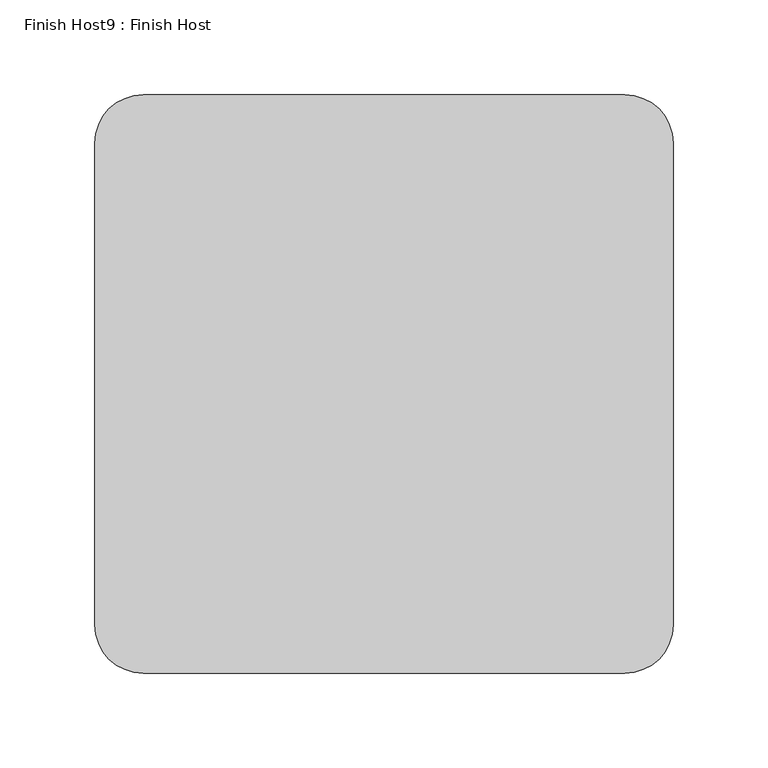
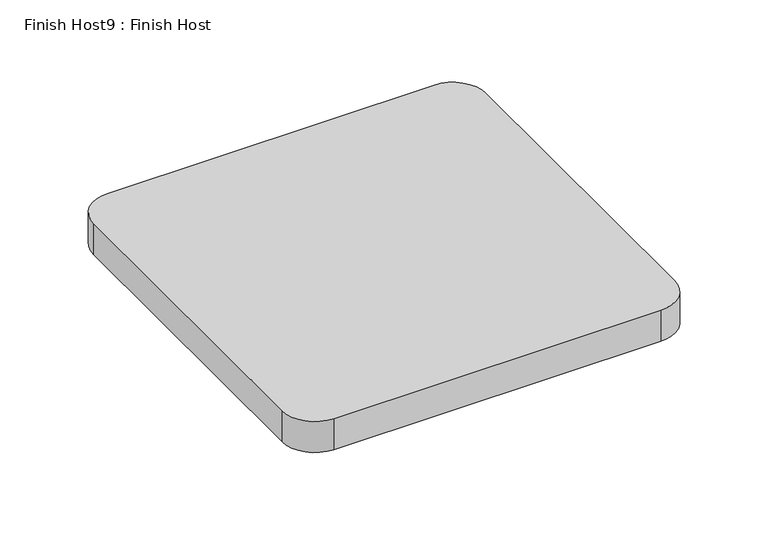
"""IFC4 building model written with IfcOpenShell, lengths in millimetres: proxy geometry, Finish Host9 : Finish Host."""

from ifc_helpers import new_model, si_unit, point, frame_2d, origin, origin_with_axes, place, context, project, spatial, polyline, circle_curve, trimmed, segment, composite_curve, outline, extrude, source, transform, mapped, element, save


def finish_host9_finish_host_c5e91da6(model_context):
    return source(origin(), model_context, "Body", "SweptSolid", [
        extrude(outline(composite_curve([segment(polyline([(3018.9649374, 2632.9667263), (3018.9649374, 2886.9667263)]), True, "CONTINUOUS"), segment(trimmed(circle_curve(frame_2d((3044.3649374, 2886.9667263)), 25.4), [point((3018.9649374, 2886.9667263))], [point((3044.3649374, 2912.3667263))], False, "CARTESIAN"), True, "CONTINUOUS"), segment(polyline([(3044.3649374, 2912.3667263), (3298.3649374, 2912.3667263)]), True, "CONTINUOUS"), segment(trimmed(circle_curve(frame_2d((3298.3649374, 2886.9667263)), 25.4), [point((3298.3649374, 2912.3667263))], [point((3323.7649374, 2886.9667263))], False, "CARTESIAN"), True, "CONTINUOUS"), segment(polyline([(3323.7649374, 2886.9667263), (3323.7649374, 2632.9667263)]), True, "CONTINUOUS"), segment(trimmed(circle_curve(frame_2d((3298.3649374, 2632.9667263)), 25.4), [point((3323.7649374, 2632.9667263))], [point((3298.3649374, 2607.5667263))], False, "CARTESIAN"), True, "CONTINUOUS"), segment(polyline([(3298.3649374, 2607.5667263), (3044.3649374, 2607.5667263)]), True, "CONTINUOUS"), segment(trimmed(circle_curve(frame_2d((3044.3649374, 2632.9667263)), 25.4), [point((3044.3649374, 2607.5667263))], [point((3018.9649374, 2632.9667263))], False, "CARTESIAN"), True, "CONTINUOUS")], self_intersect=False)), origin_with_axes(), (0.0, 0.0, 1.0), 25.4),
    ])


if __name__ == "__main__":
    model = new_model("IFC4")
    model_context = context("Model", 3, world=origin())
    ifc_project = project(units=[si_unit("LENGTHUNIT", "METRE", prefix="MILLI")], contexts=[model_context])
    site = spatial("IfcSite", under=ifc_project)
    building = spatial("IfcBuilding", under=site)
    placement = place(None, origin())
    finish_host9_finish_host_shape = finish_host9_finish_host_c5e91da6(model_context)
    element("IfcBuildingElementProxy", 1, Name="Finish Host9 : Finish Host", ObjectType="Finish Host9 : Finish Host", at=placement, inside=building, context=model_context, shape_type="MappedRepresentation", body=[
        mapped(finish_host9_finish_host_shape, transform((0.0, 0.0, 0.0), x_axis=(1.0, 0.0, 0.0), y_axis=(0.0, 1.0, 0.0), z_axis=(0.0, 0.0, 1.0))),
    ])
    save(model, "model.ifc")
